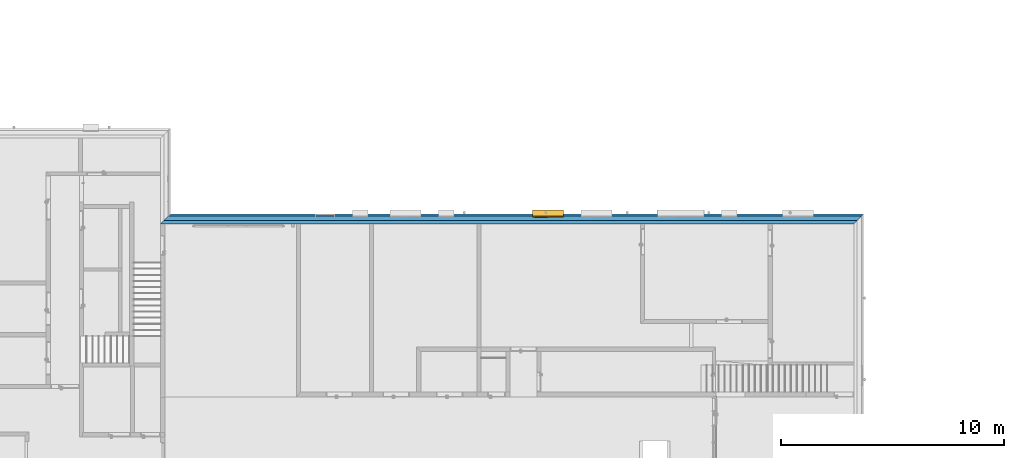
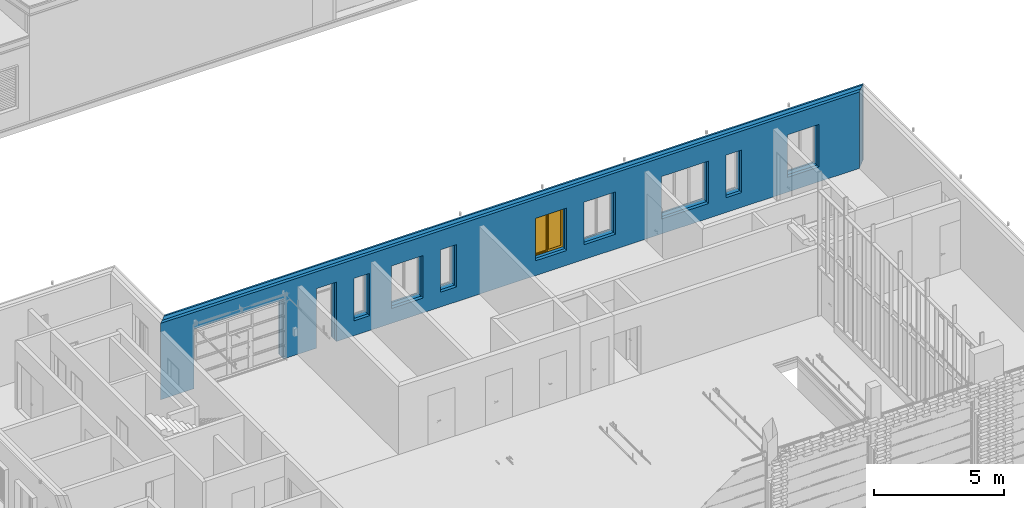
# One storey, part 18 of 62: 3 building element parts, 1 window, 10 openings, 1 element without a shape of its own.
"""IFC2X3 building model written with IfcOpenShell, lengths in millimetres."""

import ifcopenshell
import ifcopenshell.guid

model = None  # the IFC model being written
_history = None  # IfcOwnerHistory: only IFC2X3 demands one
_inside = {}  # id of a spatial element -> (the spatial element, [elements in it])
_under = {}  # id of a project, library or spatial element -> (it, [spatial elements below it])
_declared = {}  # id of a project -> (the project, [libraries it declares])
_typed = {}  # id of a type object -> (the type object, [elements of that type])
_made_of = {}  # id of a material, layer set ... -> (it, [elements and type objects made of it])


def new_model(schema):
    """Start an empty IFC model of exactly this schema.

    Asked for "IFC4X3", IfcOpenShell would pick the latest addendum, in which some entities
    have other attributes; the version numbers below select the first issue.
    IFC2X3 requires an IfcOwnerHistory on every rooted entity: one is made here for all.
    """
    global model, _history
    if schema == "IFC4X3":
        model = ifcopenshell.file(schema_version=(4, 3, 0, 0))
    else:
        model = ifcopenshell.file(schema=schema)
    _inside.clear()
    _under.clear()
    _declared.clear()
    _typed.clear()
    _made_of.clear()
    _history = None
    if model.schema == "IFC2X3":
        org = make("IfcOrganization", Name="unknown")
        user = make(
            "IfcPersonAndOrganization",
            ThePerson=make("IfcPerson", FamilyName="unknown"),
            TheOrganization=org,
        )
        app = make(
            "IfcApplication",
            ApplicationDeveloper=org,
            Version="unknown",
            ApplicationFullName="unknown",
            ApplicationIdentifier="unknown",
        )
        _history = make(
            "IfcOwnerHistory",
            OwningUser=user,
            OwningApplication=app,
            ChangeAction="ADDED",
            CreationDate=0,
        )
    return model


def make(cls, **values):
    """One entity of the class cls with the attributes given. An attribute that is None is left unset."""
    return model.create_entity(
        cls, **{name: value for name, value in values.items() if value is not None}
    )


def entity(cls, *values):
    """Any entity or typed value of the class cls, its attributes in the order of the schema. None: left unset."""
    e = model.create_entity(cls)
    for i, value in enumerate(values):
        if value is not None:
            e[i] = value
    return e


def rooted(cls, **values):
    """An entity with a GlobalId (a new one), such as an element, a storey or a relation."""
    return make(cls, GlobalId=ifcopenshell.guid.new(), OwnerHistory=_history, **values)


def si_unit(unit_type, name, prefix=None):
    """IfcSIUnit, for example si_unit("LENGTHUNIT", "METRE", prefix="MILLI")."""
    return make("IfcSIUnit", UnitType=unit_type, Prefix=prefix, Name=name)


def converted_unit(unit_type, name, factor, base, dimensions=None, offset=None):
    """IfcConversionBasedUnit, such as the inch: factor (a typed value) times the base unit."""
    return make(
        "IfcConversionBasedUnit"
        if offset is None
        else "IfcConversionBasedUnitWithOffset",
        ConversionOffset=offset,
        Dimensions=None
        if dimensions is None
        else entity("IfcDimensionalExponents", *dimensions),
        UnitType=unit_type,
        Name=name,
        ConversionFactor=make(
            "IfcMeasureWithUnit", ValueComponent=factor, UnitComponent=base
        ),
    )


def derived_unit(unit_type, elements):
    """IfcDerivedUnit: a product of units, each with its exponent."""
    return make(
        "IfcDerivedUnit",
        Elements=[
            make("IfcDerivedUnitElement", Unit=unit, Exponent=power)
            for unit, power in elements
        ],
        UnitType=unit_type,
    )


def money_unit(currency):
    """IfcMonetaryUnit."""
    return make("IfcMonetaryUnit", Currency=currency)


def assignment(units):
    """IfcUnitAssignment: the units of a project."""
    return None if units is None else make("IfcUnitAssignment", Units=units)


def point(xyz):
    """IfcCartesianPoint."""
    return None if xyz is None else make("IfcCartesianPoint", Coordinates=xyz)


def direction(xyz):
    """IfcDirection."""
    return None if xyz is None else make("IfcDirection", DirectionRatios=xyz)


def frame(location, z_axis=None, x_axis=None):
    """IfcAxis2Placement3D, a coordinate frame: its origin and axes. An axis left out is left unset."""
    return make(
        "IfcAxis2Placement3D",
        Location=point(location),
        Axis=direction(z_axis),
        RefDirection=direction(x_axis),
    )


def frame_2d(location, x_axis=None):
    """IfcAxis2Placement2D, a coordinate frame in the plane: its origin and x axis."""
    return make(
        "IfcAxis2Placement2D", Location=point(location), RefDirection=direction(x_axis)
    )


def origin_with_axes():
    """The frame at (0, 0, 0) with the z axis (0, 0, 1) and the x axis (1, 0, 0) written out."""
    return frame((0.0, 0.0, 0.0), z_axis=(0.0, 0.0, 1.0), x_axis=(1.0, 0.0, 0.0))


def origin_2d_with_axis():
    """The frame at (0, 0) in the plane with the x axis (1, 0) written out."""
    return frame_2d((0.0, 0.0), x_axis=(1.0, 0.0))


def place(relative_to, where):
    """IfcLocalPlacement: puts the frame where relative to a parent placement (None: the world)."""
    return make(
        "IfcLocalPlacement", PlacementRelTo=relative_to, RelativePlacement=where
    )


def context(
    kind, dimensions, precision=None, world=None, true_north=None, identifier=None
):
    """IfcGeometricRepresentationContext, for example the 3D "Model" context."""
    return make(
        "IfcGeometricRepresentationContext",
        ContextIdentifier=identifier,
        ContextType=kind,
        CoordinateSpaceDimension=dimensions,
        Precision=precision,
        WorldCoordinateSystem=world,
        TrueNorth=true_north,
    )


def subcontext(parent, identifier, kind, view, scale=None):
    """IfcGeometricRepresentationSubContext, for example "Body" below "Model"."""
    return make(
        "IfcGeometricRepresentationSubContext",
        ContextIdentifier=identifier,
        ContextType=kind,
        ParentContext=parent,
        TargetScale=scale,
        TargetView=view,
    )


def project(units=None, contexts=None):
    """IfcProject with its units and contexts."""
    return rooted(
        "IfcProject",
        Name="project",
        RepresentationContexts=contexts,
        UnitsInContext=assignment(units),
    )


def spatial(cls, under=None, at=None, **own):
    """A site, building, storey or space (cls), placed at a placement, below another one or the project."""
    s = rooted(cls, ObjectPlacement=at, **own)
    if under is not None:
        _under.setdefault(under.id(), (under, []))[1].append(s)
    return s


def polyline(points):
    """IfcPolyline through the points."""
    return make("IfcPolyline", Points=[point(p) for p in points])


def profile(cls, at=None, kind="AREA", **sizes):
    """A parametric profile (cls). Its sizes go by their IFC names, for example OverallWidth=200.0."""
    return make(cls, ProfileType=kind, Position=at, **sizes)


def rectangle(**sizes):
    """IfcRectangleProfileDef."""
    return profile("IfcRectangleProfileDef", **sizes)


def outline(outer, holes=None, kind="AREA"):
    """IfcArbitraryClosedProfileDef: a profile drawn as a closed curve; with holes, ...WithVoids."""
    if holes is None:
        return make("IfcArbitraryClosedProfileDef", ProfileType=kind, OuterCurve=outer)
    return make(
        "IfcArbitraryProfileDefWithVoids",
        ProfileType=kind,
        OuterCurve=outer,
        InnerCurves=holes,
    )


def extrude(swept, where, along, depth):
    """IfcExtrudedAreaSolid: the profile swept, set in the frame where, extruded along a direction by depth."""
    return make(
        "IfcExtrudedAreaSolid",
        SweptArea=swept,
        Position=where,
        ExtrudedDirection=direction(along),
        Depth=depth,
    )


def faces_of(points, faces, orient=None, outer=None):
    """IfcFace entities. A face is a list of loops; a loop is a list of indices into points, from 0.

    orient and outer hold one flag for each loop. By default every Orientation is true, the
    first loop of a face is its IfcFaceOuterBound and the others are IfcFaceBound.
    """
    made = []
    for i, loops in enumerate(faces):
        bounds = []
        for j, loop in enumerate(loops):
            is_outer = j == 0 if outer is None else outer[i][j]
            bounds.append(
                make(
                    "IfcFaceOuterBound" if is_outer else "IfcFaceBound",
                    Bound=make("IfcPolyLoop", Polygon=[points[k] for k in loop]),
                    Orientation=True if orient is None else orient[i][j],
                )
            )
        made.append(make("IfcFace", Bounds=bounds))
    return made


def open_shell(faces, orient=None, outer=None):
    """The faces of one IfcOpenShell. surface_model builds it on its shared points."""
    return ("IfcOpenShell", faces, orient, outer)


def faceted_brep(points, faces, orient=None, outer=None, voids=None):
    """IfcFacetedBrep: a solid bounded by flat faces; with voids (closed shells), ...WithVoids."""
    shared = [point(p) for p in points]
    hull = make("IfcClosedShell", CfsFaces=faces_of(shared, faces, orient, outer))
    if voids is None:
        return make("IfcFacetedBrep", Outer=hull)
    return make(
        "IfcFacetedBrepWithVoids",
        Outer=hull,
        Voids=[
            make(cls, CfsFaces=faces_of(shared, fs, o, b)) for cls, fs, o, b in voids
        ],
    )


def surface_model(cls, points, shells):
    """IfcFaceBasedSurfaceModel or IfcShellBasedSurfaceModel (cls): surfaces that need not close."""
    shared = [point(p) for p in points]
    made = [make(c, CfsFaces=faces_of(shared, fs, o, b)) for c, fs, o, b in shells]
    if cls == "IfcFaceBasedSurfaceModel":
        return make(cls, FbsmFaces=made)
    return make(cls, SbsmBoundary=made)


def shape(context_of_items, identifier, shape_type, items):
    """IfcShapeRepresentation: the items that make up one representation, for example the "Body"."""
    return make(
        "IfcShapeRepresentation",
        ContextOfItems=context_of_items,
        RepresentationIdentifier=identifier,
        RepresentationType=shape_type,
        Items=items,
    )


def source(mapping_origin, context_of_items, identifier, shape_type, items):
    """IfcRepresentationMap: a shape defined once, which mapped items show again and again."""
    return make(
        "IfcRepresentationMap",
        MappingOrigin=mapping_origin,
        MappedRepresentation=shape(context_of_items, identifier, shape_type, items),
    )


def transform(
    local_origin,
    x_axis=None,
    y_axis=None,
    z_axis=None,
    scale=None,
    scale2=None,
    scale3=None,
    uniform=True,
):
    """IfcCartesianTransformationOperator3D, or its non-uniform kind. x_axis, y_axis, z_axis: its Axis1, 2, 3."""
    if uniform:
        return make(
            "IfcCartesianTransformationOperator3D",
            Axis1=direction(x_axis),
            Axis2=direction(y_axis),
            LocalOrigin=point(local_origin),
            Scale=scale,
            Axis3=direction(z_axis),
        )
    return make(
        "IfcCartesianTransformationOperator3DnonUniform",
        Axis1=direction(x_axis),
        Axis2=direction(y_axis),
        LocalOrigin=point(local_origin),
        Scale=scale,
        Axis3=direction(z_axis),
        Scale2=scale2,
        Scale3=scale3,
    )


def mapped(mapping_source, mapping_target):
    """IfcMappedItem: shows the shape of a source again, moved by a transform."""
    return make(
        "IfcMappedItem", MappingSource=mapping_source, MappingTarget=mapping_target
    )


def material(Name=None, Category=None):
    """IfcMaterial."""
    return make("IfcMaterial", Name=Name, Category=Category)


def made_of(thing, what):
    """Note that an element or type object is made of a material, layer set ...; save() writes the relation."""
    if what is not None:
        _made_of.setdefault(what.id(), (what, []))[1].append(thing)
    return thing


def type_object(cls, material=None, **own):
    """A type object (cls), such as IfcWallType, which elements share."""
    return made_of(rooted(cls, **own), material)


def element(
    cls,
    number,
    at=None,
    inside=None,
    cuts=None,
    type_object=None,
    material=None,
    context=None,
    identifier="Body",
    shape_type=None,
    held_by="IfcProductDefinitionShape",
    body=None,
    shapes=None,
    **own,
):
    """One element of the class cls, such as IfcWall. Its Tag is "e" and its number.

    at: its placement. inside: the storey or other place that contains it. cuts: it is an
    opening in that element (IfcRelVoidsElement). A single representation is given by context,
    identifier, shape_type and body (its items); several are given by shapes. held_by: the class
    of the entity that holds the representations. save() writes the other relations.
    """
    e = rooted(cls, Tag="e%d" % number, ObjectPlacement=at, **own)
    if body is not None:
        shapes = [shape(context, identifier, shape_type, body)]
    if shapes is not None:
        e.Representation = make(held_by, Representations=shapes)
    if inside is not None:
        _inside.setdefault(inside.id(), (inside, []))[1].append(e)
    if cuts is not None:
        rooted(
            "IfcRelVoidsElement", RelatingBuildingElement=cuts, RelatedOpeningElement=e
        )
    if type_object is not None:
        _typed.setdefault(type_object.id(), (type_object, []))[1].append(e)
    return made_of(e, material)


def fill(opening, filler):
    """IfcRelFillsElement: the door or window that sits in an opening."""
    return rooted(
        "IfcRelFillsElement",
        RelatingOpeningElement=opening,
        RelatedBuildingElement=filler,
    )


def aggregate(whole, parts):
    """IfcRelAggregates: a whole, such as a stair, and the parts it consists of."""
    return rooted("IfcRelAggregates", RelatingObject=whole, RelatedObjects=parts)


def save(model, path):
    """Write the relations noted so far, then the file.

    IfcRelAggregates (storeys below a building ...), IfcRelContainedInSpatialStructure (elements
    in a storey), IfcRelDefinesByType, IfcRelAssociatesMaterial and IfcRelDeclares: one each for
    every whole, place, type object, material and project.
    """
    for whole, parts in _under.values():
        aggregate(whole, parts)
    for where, things in _inside.values():
        rooted(
            "IfcRelContainedInSpatialStructure",
            RelatedElements=things,
            RelatingStructure=where,
        )
    for kind, things in _typed.values():
        rooted("IfcRelDefinesByType", RelatedObjects=things, RelatingType=kind)
    for what, things in _made_of.values():
        rooted("IfcRelAssociatesMaterial", RelatedObjects=things, RelatingMaterial=what)
    for by, libraries in _declared.values():
        rooted("IfcRelDeclares", RelatingContext=by, RelatedDefinitions=libraries)
    model.write(path)


model = new_model("IFC2X3")

# Units and contexts
model_context = context("Model", 3, precision=0.01, world=origin_with_axes(), true_north=direction((0.0, 1.0)))
body_context = subcontext(model_context, "Body", "Model", "MODEL_VIEW")
ifc_project = project(units=[si_unit("LENGTHUNIT", "METRE", prefix="MILLI"), si_unit("AREAUNIT", "SQUARE_METRE"), si_unit("VOLUMEUNIT", "CUBIC_METRE"), converted_unit("PLANEANGLEUNIT", "DEGREE", entity("IfcPlaneAngleMeasure", 0.0174532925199), si_unit("PLANEANGLEUNIT", "RADIAN"), dimensions=[0, 0, 0, 0, 0, 0, 0]), si_unit("SOLIDANGLEUNIT", "STERADIAN"), money_unit("EUR"), converted_unit("TIMEUNIT", "Year", entity("IfcTimeMeasure", 31556926.0), si_unit("TIMEUNIT", "SECOND"), dimensions=[0, 0, 1, 0, 0, 0, 0]), si_unit("MASSUNIT", "GRAM", prefix="KILO"), si_unit("THERMODYNAMICTEMPERATUREUNIT", "DEGREE_CELSIUS"), si_unit("LUMINOUSINTENSITYUNIT", "LUMEN"), si_unit("ENERGYUNIT", "JOULE", prefix="MEGA"), derived_unit("THERMALCONDUCTANCEUNIT", [(si_unit("POWERUNIT", "WATT"), 1), (si_unit("LENGTHUNIT", "METRE"), -1), (si_unit("THERMODYNAMICTEMPERATUREUNIT", "KELVIN"), -1)]), derived_unit("SPECIFICHEATCAPACITYUNIT", [(si_unit("ENERGYUNIT", "JOULE"), 1), (si_unit("MASSUNIT", "GRAM", prefix="KILO"), -1), (si_unit("THERMODYNAMICTEMPERATUREUNIT", "KELVIN"), -1)]), derived_unit("MASSDENSITYUNIT", [(si_unit("MASSUNIT", "GRAM", prefix="KILO"), 1), (si_unit("VOLUMEUNIT", "CUBIC_METRE"), -1)])], contexts=[model_context])

# Site, building, storey
site_placement = place(None, origin_with_axes())
site = spatial("IfcSite", under=ifc_project, at=site_placement, Name="KIRDE 14, ELVA", CompositionType="ELEMENT")
building_placement = place(site_placement, origin_with_axes())
building = spatial("IfcBuilding", under=site, at=building_placement, Name="PPA ja Päästeameti ühishoone", CompositionType="ELEMENT")
storey_placement = place(building_placement, origin_with_axes())
storey = spatial("IfcBuildingStorey", under=building, at=storey_placement, Name="Esimene korrus", CompositionType="ELEMENT", Elevation=0.0)

# Window
window_style = type_object("IfcWindowStyle", Name="Double Window 24", ConstructionType="NOTDEFINED", OperationType="DOUBLE_PANEL_VERTICAL", ParameterTakesPrecedence=False, Sizeable=False)
shared_shape = source(origin_with_axes(), body_context, "Body", "SurfaceModel", [
    faceted_brep([(700.0, -50.0, 0.0), (700.0, -130.0, 0.0), (-700.0, -130.0, 0.0), (-700.0, -50.0, 0.0), (700.0, -50.0, 2000.0), (700.0, -130.0, 2000.0), (-700.0, -130.0, 2000.0), (695.0, -130.0, 5.0), (-695.0, -130.0, 5.0), (-695.0, -130.0, 1995.0), (695.0, -130.0, 1995.0), (-700.0, -50.0, 2000.0), (695.0, -50.0, 5.0), (695.0, -50.0, 1995.0), (-695.0, -50.0, 1995.0), (-695.0, -50.0, 5.0)], [[[0, 1, 2, 3]], [[4, 5, 1, 0]], [[1, 5, 6, 2], [7, 8, 9, 10]], [[3, 2, 6, 11]], [[0, 3, 11, 4], [12, 13, 14, 15]], [[11, 6, 5, 4]], [[15, 8, 7, 12]], [[14, 9, 8, 15]], [[13, 10, 9, 14]], [[12, 7, 10, 13]]]),
    faceted_brep([(700.0, -330.0, 0.0), (695.0, -330.0, 5.0), (695.0, -130.0, 5.0), (700.0, -130.0, 0.0), (700.0, -330.0, 2000.0), (695.0, -330.0, 1995.0), (695.0, -130.0, 1995.0), (700.0, -130.0, 2000.0)], [[[0, 1, 2, 3]], [[0, 4, 5, 1]], [[1, 5, 6, 2]], [[3, 2, 6, 7]], [[4, 0, 3, 7]], [[5, 4, 7, 6]]]),
    faceted_brep([(-700.0, -330.0, 2000.0), (-695.0, -330.0, 1995.0), (-695.0, -130.0, 1995.0), (-700.0, -130.0, 2000.0), (-700.0, -330.0, 0.0), (-695.0, -330.0, 5.0), (-695.0, -130.0, 5.0), (-700.0, -130.0, 0.0)], [[[0, 1, 2, 3]], [[0, 4, 5, 1]], [[1, 5, 6, 2]], [[3, 2, 6, 7]], [[4, 0, 3, 7]], [[5, 4, 7, 6]]]),
    faceted_brep([(-700.0, -330.0, 0.0), (-695.0, -330.0, 5.0), (-695.0, -130.0, 5.0), (-700.0, -130.0, 0.0), (700.0, -330.0, 0.0), (695.0, -330.0, 5.0), (695.0, -130.0, 5.0), (700.0, -130.0, 0.0)], [[[0, 1, 2, 3]], [[0, 4, 5, 1]], [[1, 5, 6, 2]], [[3, 2, 6, 7]], [[4, 0, 3, 7]], [[5, 4, 7, 6]]]),
    faceted_brep([(700.0, -330.0, 2000.0), (695.0, -330.0, 1995.0), (695.0, -130.0, 1995.0), (700.0, -130.0, 2000.0), (-700.0, -330.0, 2000.0), (-695.0, -330.0, 1995.0), (-695.0, -130.0, 1995.0), (-700.0, -130.0, 2000.0)], [[[0, 1, 2, 3]], [[0, 4, 5, 1]], [[1, 5, 6, 2]], [[3, 2, 6, 7]], [[4, 0, 3, 7]], [[5, 4, 7, 6]]]),
    faceted_brep([(635.0, 0.0, 1910.0), (635.0, -25.0, 1910.0), (610.0, -25.0, 1910.0), (610.0, -50.0, 1910.0), (700.0, -50.0, 1910.0), (700.0, 0.0, 1910.0), (635.0, 0.0, 90.0), (635.0, -25.0, 90.0), (610.0, -25.0, 90.0), (610.0, -50.0, 90.0), (700.0, -50.0, 90.0), (700.0, 0.0, 90.0)], [[[0, 1, 2, 3, 4, 5]], [[1, 0, 6, 7]], [[8, 2, 1, 7]], [[2, 8, 9, 3]], [[4, 3, 9, 10]], [[5, 4, 10, 11]], [[6, 0, 5, 11]], [[7, 6, 11, 10, 9, 8]]]),
    faceted_brep([(20.0, -25.0, 1910.0), (-5.0, -25.0, 1910.0), (-5.0, 0.0, 1910.0), (-70.0, 0.0, 1910.0), (-70.0, -50.0, 1910.0), (20.0, -50.0, 1910.0), (20.0, -25.0, 90.0), (-5.0, -25.0, 90.0), (-5.0, 0.0, 90.0), (-70.0, 0.0, 90.0), (-70.0, -50.0, 90.0), (20.0, -50.0, 90.0)], [[[0, 1, 2, 3, 4, 5]], [[1, 0, 6, 7]], [[8, 2, 1, 7]], [[2, 8, 9, 3]], [[9, 10, 4, 3]], [[10, 11, 5, 4]], [[6, 0, 5, 11]], [[7, 6, 11, 10, 9, 8]]]),
    faceted_brep([(20.0, -25.0, 90.0), (-5.0, -25.0, 90.0), (-5.0, 0.0, 90.0), (-70.0, 0.0, 90.0), (-70.0, -50.0, 90.0), (20.0, -50.0, 90.0), (610.0, -25.0, 90.0), (635.0, -25.0, 90.0), (635.0, -25.0, 65.0), (-5.0, -25.0, 65.0), (-5.0, 0.0, 65.0), (635.0, 0.0, 65.0), (635.0, 0.0, 90.0), (700.0, 0.0, 90.0), (700.0, 0.0, 0.0), (-700.0, 0.0, 0.0), (-700.0, 0.0, 90.0), (-610.0, 0.0, 90.0), (-610.0, -50.0, 90.0), (700.0, -50.0, 90.0), (610.0, -50.0, 90.0), (-700.0, -50.0, 90.0), (-700.0, -50.0, 0.0), (700.0, -50.0, 0.0)], [[[0, 1, 2, 3, 4, 5]], [[1, 0, 6, 7, 8, 9]], [[10, 2, 1, 9]], [[11, 12, 13, 14, 15, 16, 17, 3, 2, 10]], [[17, 18, 4, 3]], [[19, 20, 5, 4, 18, 21, 22, 23]], [[6, 0, 5, 20]], [[7, 6, 20, 19, 13, 12]], [[7, 12, 11, 8]], [[11, 10, 9, 8]], [[13, 19, 23, 14]], [[14, 23, 22, 15]], [[15, 22, 21, 16]], [[16, 21, 18, 17]]]),
    faceted_brep([(635.0, 0.0, 1910.0), (635.0, 0.0, 1935.0), (-5.0, 0.0, 1935.0), (-5.0, 0.0, 1910.0), (-70.0, 0.0, 1910.0), (-610.0, 0.0, 1910.0), (-700.0, 0.0, 1910.0), (-700.0, 0.0, 2000.0), (700.0, 0.0, 2000.0), (700.0, 0.0, 1910.0), (635.0, -25.0, 1910.0), (635.0, -25.0, 1935.0), (-5.0, -25.0, 1935.0), (-5.0, -25.0, 1910.0), (20.0, -25.0, 1910.0), (20.0, -50.0, 1910.0), (-70.0, -50.0, 1910.0), (-610.0, -50.0, 1910.0), (-700.0, -50.0, 1910.0), (-700.0, -50.0, 2000.0), (700.0, -50.0, 2000.0), (700.0, -50.0, 1910.0), (610.0, -50.0, 1910.0), (610.0, -25.0, 1910.0)], [[[0, 1, 2, 3, 4, 5, 6, 7, 8, 9]], [[1, 0, 10, 11]], [[2, 1, 11, 12]], [[3, 2, 12, 13]], [[13, 14, 15, 16, 4, 3]], [[4, 16, 17, 5]], [[5, 17, 18, 6]], [[6, 18, 19, 7]], [[7, 19, 20, 8]], [[8, 20, 21, 9]], [[10, 0, 9, 21, 22, 23]], [[14, 13, 12, 11, 10, 23]], [[14, 23, 22, 15]], [[16, 15, 22, 21, 20, 19, 18, 17]]]),
    faceted_brep([(-610.0, -50.0, 90.0), (-700.0, -50.0, 90.0), (-700.0, 0.0, 90.0), (-610.0, 0.0, 90.0), (-610.0, -50.0, 1910.0), (-700.0, -50.0, 1910.0), (-700.0, 0.0, 1910.0), (-610.0, 0.0, 1910.0)], [[[0, 1, 2, 3]], [[0, 4, 5, 1]], [[1, 5, 6, 2]], [[3, 2, 6, 7]], [[4, 0, 3, 7]], [[5, 4, 7, 6]]]),
    faceted_brep([(585.0, -25.0, 1885.0), (635.0, -25.0, 1885.0), (635.0, 25.0, 1885.0), (585.0, 25.0, 1885.0), (585.0, -25.0, 115.0), (635.0, -25.0, 115.0), (635.0, 25.0, 115.0), (585.0, 25.0, 115.0)], [[[0, 1, 2, 3]], [[0, 4, 5, 1]], [[1, 5, 6, 2]], [[3, 2, 6, 7]], [[4, 0, 3, 7]], [[5, 4, 7, 6]]]),
    faceted_brep([(45.0, -25.0, 115.0), (-5.0, -25.0, 115.0), (-5.0, 25.0, 115.0), (45.0, 25.0, 115.0), (45.0, -25.0, 1885.0), (-5.0, -25.0, 1885.0), (-5.0, 25.0, 1885.0), (45.0, 25.0, 1885.0)], [[[0, 1, 2, 3]], [[0, 4, 5, 1]], [[1, 5, 6, 2]], [[3, 2, 6, 7]], [[4, 0, 3, 7]], [[5, 4, 7, 6]]]),
    faceted_brep([(-5.0, -25.0, 65.0), (-5.0, -25.0, 115.0), (-5.0, 25.0, 115.0), (-5.0, 25.0, 65.0), (635.0, -25.0, 65.0), (635.0, -25.0, 115.0), (585.0, -25.0, 115.0), (45.0, -25.0, 115.0), (45.0, 25.0, 115.0), (585.0, 25.0, 115.0), (635.0, 25.0, 115.0), (635.0, 25.0, 65.0)], [[[0, 1, 2, 3]], [[0, 4, 5, 6, 7, 1]], [[1, 7, 8, 2]], [[3, 2, 8, 9, 10, 11]], [[4, 0, 3, 11]], [[5, 4, 11, 10]], [[6, 5, 10, 9]], [[7, 6, 9, 8]]]),
    faceted_brep([(635.0, -25.0, 1935.0), (635.0, -25.0, 1885.0), (635.0, 25.0, 1885.0), (635.0, 25.0, 1935.0), (-5.0, -25.0, 1935.0), (-5.0, -25.0, 1885.0), (45.0, -25.0, 1885.0), (585.0, -25.0, 1885.0), (585.0, 25.0, 1885.0), (45.0, 25.0, 1885.0), (-5.0, 25.0, 1885.0), (-5.0, 25.0, 1935.0)], [[[0, 1, 2, 3]], [[0, 4, 5, 6, 7, 1]], [[1, 7, 8, 2]], [[3, 2, 8, 9, 10, 11]], [[4, 0, 3, 11]], [[5, 4, 11, 10]], [[6, 5, 10, 9]], [[7, 6, 9, 8]]]),
    surface_model("IfcShellBasedSurfaceModel", [(585.0, -10.0, 115.0), (585.0, -10.0, 1885.0), (45.0, -10.0, 1885.0), (45.0, -10.0, 115.0)], [open_shell([[[0, 1, 2, 3]]])]),
    surface_model("IfcShellBasedSurfaceModel", [(585.0, 10.0, 115.0), (45.0, 10.0, 115.0), (45.0, 10.0, 1885.0), (585.0, 10.0, 1885.0)], [open_shell([[[0, 1, 2, 3]]])]),
    surface_model("IfcShellBasedSurfaceModel", [(-70.0, -35.0, 90.0), (-70.0, -35.0, 1910.0), (-610.0, -35.0, 1910.0), (-610.0, -35.0, 90.0)], [open_shell([[[0, 1, 2, 3]]])]),
    surface_model("IfcShellBasedSurfaceModel", [(-70.0, -15.0, 90.0), (-610.0, -15.0, 90.0), (-610.0, -15.0, 1910.0), (-70.0, -15.0, 1910.0)], [open_shell([[[0, 1, 2, 3]]])]),
])
wall_placement = place(storey_placement, frame((8900.00012331, 20749.5916292, 0.0), z_axis=(0.0, 0.0, 1.0), x_axis=(1.0, 3.88740030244e-10, 0.0)))
opening_1_placement = place(wall_placement, frame((17399.6518059, 0.0, 700.0), z_axis=(0.0, 0.0, 1.0), x_axis=(1.0, 0.0, 0.0)))
window_placement = place(opening_1_placement, frame((700.0, 0.0, 0.0), z_axis=(0.0, 0.0, 1.0), x_axis=(-1.0, 0.0, 0.0)))
window = element("IfcWindow", 1, at=window_placement, inside=storey, type_object=window_style, Name="A-05", ObjectType="WINDOW", OverallHeight=2000.0, OverallWidth=1400.0, context=body_context, shape_type="MappedRepresentation", body=[
    mapped(shared_shape, transform((699.999999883, -299.999993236, 0.0))),
])

# Wall, opening
wall_type = type_object("IfcWallType", Name="VS-01 430", PredefinedType="NOTDEFINED")
wall = element("IfcWall", 2, at=wall_placement, inside=storey, type_object=wall_type, Name="VS-01")
opening_1 = element("IfcOpeningElement", 3, at=opening_1_placement, cuts=wall, Name="A-05", context=body_context, shape_type="SweptSolid", body=[
    extrude(rectangle(XDim=1400.0, YDim=2000.0, at=origin_2d_with_axis()), frame((1.36058275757e-07, 349.999993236, 1000.0), z_axis=(-3.88740030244e-10, -1.0, 0.0), x_axis=(1.0, -3.88740152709e-10, 0.0)), (0.0, 0.0, 1.0), 780.0),
    extrude(rectangle(XDim=1400.0, YDim=2000.0, at=origin_2d_with_axis()), frame((1.36058275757e-07, 349.999993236, 1000.0), z_axis=(3.88740030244e-10, 1.0, 0.0), x_axis=(1.0, -3.88740152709e-10, 0.0)), (0.0, 0.0, 1.0), 510.0),
    extrude(rectangle(XDim=1400.0, YDim=2000.0, at=origin_2d_with_axis()), frame((1.67155178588e-07, 429.999993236, 1000.0), z_axis=(3.88740030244e-10, 1.0, 0.0), x_axis=(1.0, -3.88740152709e-10, 0.0)), (0.0, 0.0, 1.0), 510.0),
])

fill(opening_1, window)

# Opening
opening_2_placement = place(wall_placement, frame((23369.6518059, 0.0, 700.0), z_axis=(0.0, 0.0, 1.0), x_axis=(1.0, 0.0, 0.0)))
element("IfcOpeningElement", 4, at=opening_2_placement, cuts=wall, Name="A-09", context=body_context, shape_type="SweptSolid", body=[
    extrude(rectangle(XDim=2100.0, YDim=2000.0, at=origin_2d_with_axis()), frame((1.36061828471e-07, 349.999990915, 1000.0), z_axis=(-3.88740030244e-10, -1.0, 0.0), x_axis=(1.0, -3.88740152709e-10, 0.0)), (0.0, 0.0, 1.0), 780.0),
    extrude(rectangle(XDim=2100.0, YDim=2000.0, at=origin_2d_with_axis()), frame((1.36061828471e-07, 349.999990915, 1000.0), z_axis=(3.88740030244e-10, 1.0, 0.0), x_axis=(1.0, -3.88740152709e-10, 0.0)), (0.0, 0.0, 1.0), 510.0),
    extrude(rectangle(XDim=2140.0, YDim=2040.0, at=origin_2d_with_axis()), frame((1.67162284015e-07, 429.999990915, 1000.0), z_axis=(3.88740030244e-10, 1.0, 0.0), x_axis=(1.0, -3.88740152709e-10, 0.0)), (0.0, 0.0, 1.0), 510.0),
])

opening_3_placement = place(wall_placement, frame((28639.6518059, 0.0, 700.0), z_axis=(0.0, 0.0, 1.0), x_axis=(1.0, 0.0, 0.0)))
element("IfcOpeningElement", 5, at=opening_3_placement, cuts=wall, Name="A-05", context=body_context, shape_type="SweptSolid", body=[
    extrude(rectangle(XDim=1400.0, YDim=2000.0, at=origin_2d_with_axis()), frame((1.36061828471e-07, 349.999988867, 1000.0), z_axis=(-3.88740030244e-10, -1.0, 0.0), x_axis=(1.0, -3.88740152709e-10, 0.0)), (0.0, 0.0, 1.0), 780.0),
    extrude(rectangle(XDim=1400.0, YDim=2000.0, at=origin_2d_with_axis()), frame((1.36061828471e-07, 349.999988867, 1000.0), z_axis=(3.88740030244e-10, 1.0, 0.0), x_axis=(1.0, -3.88740152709e-10, 0.0)), (0.0, 0.0, 1.0), 510.0),
    extrude(rectangle(XDim=1400.0, YDim=2000.0, at=origin_2d_with_axis()), frame((1.67162284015e-07, 429.999988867, 1000.0), z_axis=(3.88740030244e-10, 1.0, 0.0), x_axis=(1.0, -3.88740152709e-10, 0.0)), (0.0, 0.0, 1.0), 510.0),
])

opening_4_placement = place(wall_placement, frame((19579.6518059, 0.0, 700.0), z_axis=(0.0, 0.0, 1.0), x_axis=(1.0, 0.0, 0.0)))
element("IfcOpeningElement", 6, at=opening_4_placement, cuts=wall, Name="A-05", context=body_context, shape_type="SweptSolid", body=[
    extrude(rectangle(XDim=1400.0, YDim=2000.0, at=origin_2d_with_axis()), frame((1.36058275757e-07, 349.999992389, 1000.0), z_axis=(-3.88740030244e-10, -1.0, 0.0), x_axis=(1.0, -3.88740152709e-10, 0.0)), (0.0, 0.0, 1.0), 780.0),
    extrude(rectangle(XDim=1400.0, YDim=2000.0, at=origin_2d_with_axis()), frame((1.36058275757e-07, 349.999992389, 1000.0), z_axis=(3.88740030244e-10, 1.0, 0.0), x_axis=(1.0, -3.88740152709e-10, 0.0)), (0.0, 0.0, 1.0), 510.0),
    extrude(rectangle(XDim=1400.0, YDim=2000.0, at=origin_2d_with_axis()), frame((1.67155178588e-07, 429.999992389, 1000.0), z_axis=(3.88740030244e-10, 1.0, 0.0), x_axis=(1.0, -3.88740152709e-10, 0.0)), (0.0, 0.0, 1.0), 510.0),
])

opening_5_placement = place(wall_placement, frame((25549.6518059, 0.0, 700.0), z_axis=(0.0, 0.0, 1.0), x_axis=(1.0, 0.0, 0.0)))
element("IfcOpeningElement", 7, at=opening_5_placement, cuts=wall, Name="A-01", context=body_context, shape_type="SweptSolid", body=[
    extrude(rectangle(XDim=700.0, YDim=2000.0, at=origin_2d_with_axis()), frame((1.36061828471e-07, 349.999990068, 1000.0), z_axis=(-3.88740030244e-10, -1.0, 0.0), x_axis=(1.0, -3.88740152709e-10, 0.0)), (0.0, 0.0, 1.0), 780.0),
    extrude(rectangle(XDim=700.0, YDim=2000.0, at=origin_2d_with_axis()), frame((1.36061828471e-07, 349.999990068, 1000.0), z_axis=(3.88740030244e-10, 1.0, 0.0), x_axis=(1.0, -3.88740152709e-10, 0.0)), (0.0, 0.0, 1.0), 510.0),
    extrude(rectangle(XDim=700.0, YDim=2000.0, at=origin_2d_with_axis()), frame((1.67162284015e-07, 429.999990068, 1000.0), z_axis=(3.88740030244e-10, 1.0, 0.0), x_axis=(1.0, -3.88740152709e-10, 0.0)), (0.0, 0.0, 1.0), 510.0),
])

opening_6_placement = place(wall_placement, frame((10999.651806, 0.0, 700.0), z_axis=(0.0, 0.0, 1.0), x_axis=(1.0, 0.0, 0.0)))
element("IfcOpeningElement", 8, at=opening_6_placement, cuts=wall, Name="A-05", context=body_context, shape_type="SweptSolid", body=[
    extrude(rectangle(XDim=1400.0, YDim=2000.0, at=origin_2d_with_axis()), frame((1.36058275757e-07, 349.999995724, 1000.0), z_axis=(-3.88740030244e-10, -1.0, 0.0), x_axis=(1.0, -3.88740152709e-10, 0.0)), (0.0, 0.0, 1.0), 780.0),
    extrude(rectangle(XDim=1400.0, YDim=2000.0, at=origin_2d_with_axis()), frame((1.36058275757e-07, 349.999995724, 1000.0), z_axis=(3.88740030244e-10, 1.0, 0.0), x_axis=(1.0, -3.88740152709e-10, 0.0)), (0.0, 0.0, 1.0), 510.0),
    extrude(rectangle(XDim=1400.0, YDim=2000.0, at=origin_2d_with_axis()), frame((1.67155178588e-07, 429.999995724, 1000.0), z_axis=(3.88740030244e-10, 1.0, 0.0), x_axis=(1.0, -3.88740152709e-10, 0.0)), (0.0, 0.0, 1.0), 510.0),
])

opening_7_placement = place(wall_placement, frame((12829.6518059, 0.0, 700.0), z_axis=(0.0, 0.0, 1.0), x_axis=(1.0, 0.0, 0.0)))
element("IfcOpeningElement", 9, at=opening_7_placement, cuts=wall, Name="A-01", context=body_context, shape_type="SweptSolid", body=[
    extrude(rectangle(XDim=700.0, YDim=2000.0, at=origin_2d_with_axis()), frame((1.36058275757e-07, 349.999995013, 1000.0), z_axis=(-3.88740030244e-10, -1.0, 0.0), x_axis=(1.0, -3.88740152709e-10, 0.0)), (0.0, 0.0, 1.0), 780.0),
    extrude(rectangle(XDim=700.0, YDim=2000.0, at=origin_2d_with_axis()), frame((1.36058275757e-07, 349.999995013, 1000.0), z_axis=(3.88740030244e-10, 1.0, 0.0), x_axis=(1.0, -3.88740152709e-10, 0.0)), (0.0, 0.0, 1.0), 510.0),
    extrude(rectangle(XDim=700.0, YDim=2000.0, at=origin_2d_with_axis()), frame((1.67155178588e-07, 429.999995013, 1000.0), z_axis=(3.88740030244e-10, 1.0, 0.0), x_axis=(1.0, -3.88740152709e-10, 0.0)), (0.0, 0.0, 1.0), 510.0),
])

opening_8_placement = place(wall_placement, frame((8972.13083165, 0.0, 700.0), z_axis=(0.0, 0.0, 1.0), x_axis=(1.0, 0.0, 0.0)))
element("IfcOpeningElement", 10, at=opening_8_placement, cuts=wall, Name="A-01", context=body_context, shape_type="SweptSolid", body=[
    extrude(rectangle(XDim=700.0, YDim=2000.0, at=origin_2d_with_axis()), frame((1.36058275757e-07, 349.999996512, 1000.0), z_axis=(-3.88740030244e-10, -1.0, 0.0), x_axis=(1.0, -3.88740152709e-10, 0.0)), (0.0, 0.0, 1.0), 780.0),
    extrude(rectangle(XDim=700.0, YDim=2000.0, at=origin_2d_with_axis()), frame((1.36058275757e-07, 349.999996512, 1000.0), z_axis=(3.88740030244e-10, 1.0, 0.0), x_axis=(1.0, -3.88740152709e-10, 0.0)), (0.0, 0.0, 1.0), 510.0),
    extrude(rectangle(XDim=700.0, YDim=2000.0, at=origin_2d_with_axis()), frame((1.67155178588e-07, 429.999996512, 1000.0), z_axis=(3.88740030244e-10, 1.0, 0.0), x_axis=(1.0, -3.88740152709e-10, 0.0)), (0.0, 0.0, 1.0), 510.0),
])

opening_9_placement = place(wall_placement, frame((7392.13083172, 0.0, 0.0), z_axis=(0.0, 0.0, 1.0), x_axis=(1.0, 0.0, 0.0)))
element("IfcOpeningElement", 11, at=opening_9_placement, cuts=wall, Name="VU-03", context=body_context, shape_type="SweptSolid", body=[
    extrude(rectangle(XDim=900.0, YDim=2800.0, at=origin_2d_with_axis()), frame((-1.67158731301e-07, -430.0, 1400.0), z_axis=(-3.88740030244e-10, -1.0, 0.0), x_axis=(-1.0, 3.88740030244e-10, 0.0)), (0.0, 0.0, -1.0), 1290.0),
])

opening_10_placement = place(wall_placement, frame((3500.00001494, 0.0, 0.0), z_axis=(0.0, 0.0, 1.0), x_axis=(1.0, 0.0, 0.0)))
element("IfcOpeningElement", 12, at=opening_10_placement, cuts=wall, Name="GU-03", context=body_context, shape_type="SweptSolid", body=[
    extrude(outline(polyline([(2000.0, 0.0), (2000.0, 2800.0), (-2000.0, 2800.0), (-2000.0, 0.0), (2000.0, 0.0)])), frame((-1.67158731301e-07, -430.0, 0.0), z_axis=(3.88740030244e-10, 1.0, 0.0), x_axis=(-1.0, 3.88740152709e-10, 0.0)), (0.0, 0.0, 1.0), 860.0),
])

# Building element part
ifc_material_1 = material(Name="Raudbetoon Paneelid (2)")
building_element_part_1_placement = place(wall_placement, origin_with_axes())
building_element_part_1 = element("IfcBuildingElementPart", 13, at=building_element_part_1_placement, material=ifc_material_1, Name="Raudbetoon Paneelid (2)", context=body_context, shape_type="SweptSolid", body=[
    extrude(outline(polyline([(0.0, 0.0), (31144.7047591, 0.0), (31294.7047592, 150.0), (150.000000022, 150.0), (0.0, 0.0)])), origin_with_axes(), (0.0, 0.0, 1.0), 3600.0),
])

ifc_material_2 = material(Name="Vahtpolüstüreen (4)")
building_element_part_2_placement = place(wall_placement, origin_with_axes())
building_element_part_2 = element("IfcBuildingElementPart", 14, at=building_element_part_2_placement, material=ifc_material_2, Name="Vahtpolüstüreen (4)", context=body_context, shape_type="SweptSolid", body=[
    extrude(outline(polyline([(150.000000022, 150.0), (31294.7047592, 150.0), (31494.7047593, 350.0), (350.000000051, 350.0), (150.000000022, 150.0)])), origin_with_axes(), (0.0, 0.0, 1.0), 3600.0),
])

building_element_part_3_placement = place(wall_placement, origin_with_axes())
building_element_part_3 = element("IfcBuildingElementPart", 15, at=building_element_part_3_placement, material=ifc_material_1, Name="Raudbetoon Paneelid (2)", context=body_context, shape_type="SweptSolid", body=[
    extrude(outline(polyline([(350.000000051, 350.0), (31494.7047593, 350.0), (31574.7047593, 430.0), (430.000000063, 430.0), (350.000000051, 350.0)])), origin_with_axes(), (0.0, 0.0, 1.0), 3600.0),
])

aggregate(wall, [building_element_part_1, building_element_part_2, building_element_part_3])

save(model, "model.ifc")
